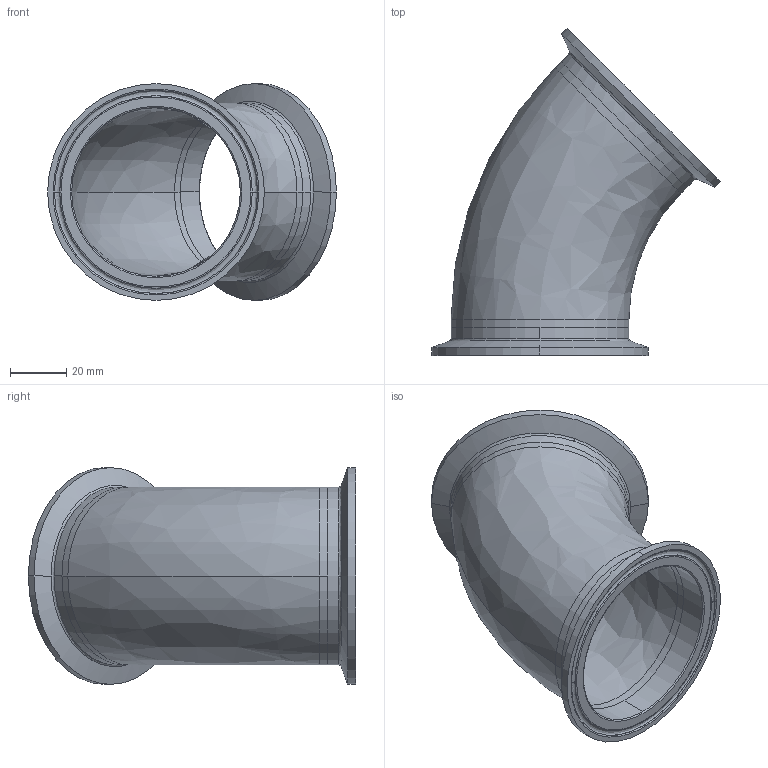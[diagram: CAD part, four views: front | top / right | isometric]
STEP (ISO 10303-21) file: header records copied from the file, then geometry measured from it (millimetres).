
FILE_DESCRIPTION (( 'STEP AP214' ), '1' );
FILE_NAME ('TEG2K6L2.5-...STEP', '2016-05-22T07:35:33', ( 'eran' ), ( '' ), 'SwSTEP 2.0', 'SolidWorks 2016', '' );
FILE_SCHEMA (( 'AUTOMOTIVE_DESIGN' ));
Length unit declared in the file: millimetre
Products named in the file (1): TEG2K6L2.5-..
Bounding box: 103.11 x 116.82 x 77.39 mm (x, y, z)
Volume: 44228.8 mm3; surface area: 46754.9 mm2
Topology: 3 solids, 3 shells, 64 faces, 156 edges, 100 vertices
Faces by surface type: bspline 24, cylinder 20, cone 12, plane 8
Entity records: 3374 total; most frequent: CARTESIAN_POINT 1817, DIRECTION 338, ORIENTED_EDGE 312, EDGE_CURVE 156, AXIS2_PLACEMENT_3D 153, CIRCLE 112, VERTEX_POINT 100, EDGE_LOOP 72
